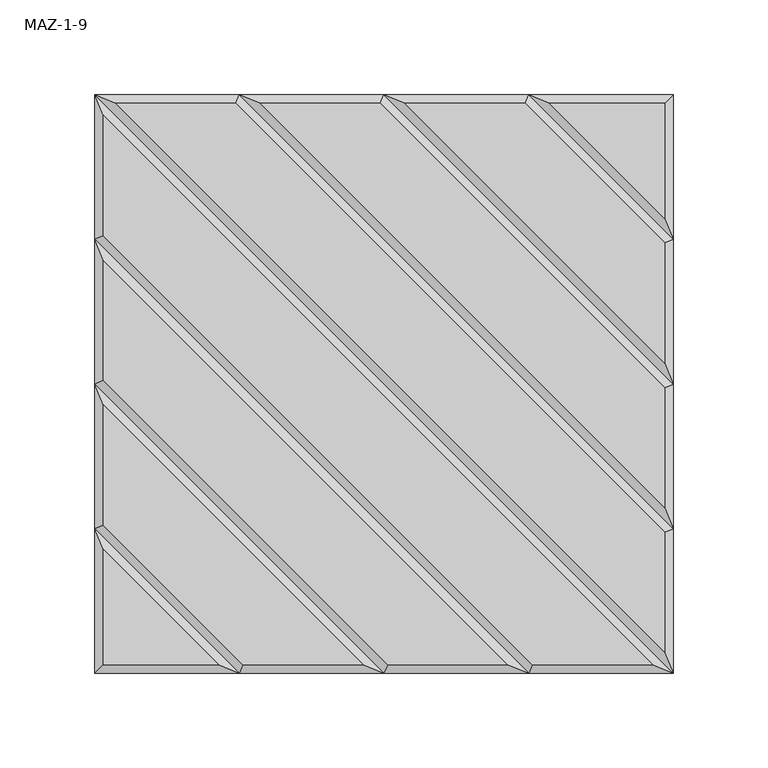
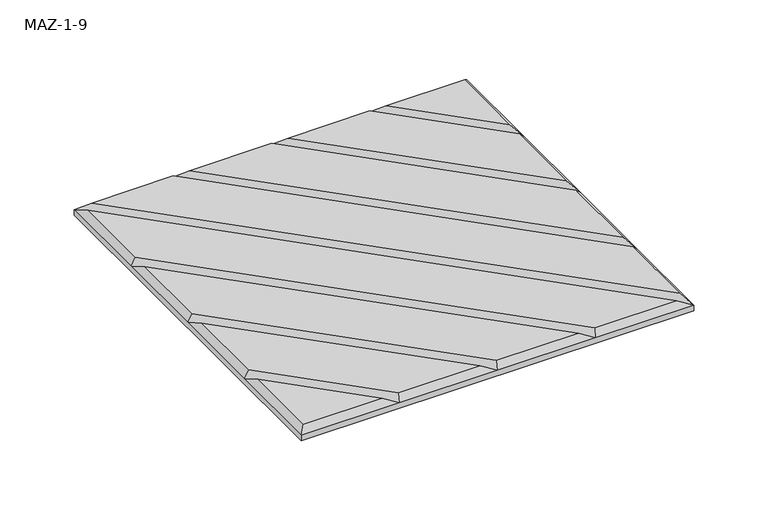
"""IFC4 building model written with IfcOpenShell, lengths in millimetres: proxy geometry, Turf_Wall Tile_Maze : MAZ-1-9."""

from ifc_helpers import new_model, si_unit, origin, place, context, project, spatial, faceted_brep, source, transform, mapped, element, save


def maz_1_9_928b4c34(model_context):
    return source(origin(), model_context, "Body", "Brep", [
        faceted_brep([(-152.4, 0.0, 10.85), (-152.4, 76.2, 10.85), (-152.4, 152.4, 10.85), (-152.4, 152.4, 6.35), (-152.4, -152.4, 6.35), (-152.4, -152.4, 10.85), (-152.4, -76.2, 10.85), (76.2, -152.4, 10.85), (0.0, -152.4, 10.85), (-76.2, -152.4, 10.85), (152.4, -152.4, 6.35), (152.4, -152.4, 10.85), (-1.863961, 147.9, 15.35), (-65.336039, 147.9, 15.35), (147.9, -65.336039, 15.35), (147.9, -1.863961, 15.35), (152.4, 152.4, 6.35), (-141.536039, 147.9, 15.35), (147.9, -141.536039, 15.35), (-76.2, 152.4, 10.85), (152.4, -76.2, 10.85), (65.336039, -147.9, 15.35), (-147.9, 65.336039, 15.35), (78.063961, -147.9, 15.35), (141.536039, -147.9, 15.35), (-147.9, 141.536039, 15.35), (-147.9, 78.063961, 15.35), (-78.063961, 147.9, 15.35), (147.9, -78.063961, 15.35), (1.863961, -147.9, 15.35), (-147.9, 1.863961, 15.35), (147.9, 10.863961, 15.35), (147.9, 74.336039, 15.35), (74.336039, 147.9, 15.35), (10.863961, 147.9, 15.35), (-74.336039, -147.9, 15.35), (-10.863961, -147.9, 15.35), (-147.9, -10.863961, 15.35), (-147.9, -74.336039, 15.35), (147.9, 147.9, 15.35), (87.063961, 147.9, 15.35), (147.9, 87.063961, 15.35), (-147.9, -147.9, 15.35), (-87.063961, -147.9, 15.35), (-147.9, -87.063961, 15.35), (0.0, 152.4, 10.85), (152.4, 0.0, 10.85), (76.2, 152.4, 10.85), (152.4, 76.2, 10.85), (152.4, 152.4, 10.85)], [[[0, 1, 2, 3, 4, 5, 6]], [[7, 8, 9, 5, 4, 10, 11]], [[12, 13, 14, 15]], [[3, 16, 10, 4]], [[17, 2, 11, 18]], [[13, 19, 20, 14]], [[21, 7, 1, 22]], [[23, 24, 25, 26]], [[27, 17, 18, 28]], [[29, 21, 22, 30]], [[31, 32, 33, 34]], [[35, 36, 37, 38]], [[39, 40, 41]], [[42, 43, 44]], [[24, 11, 2, 25]], [[34, 45, 46, 31]], [[36, 8, 0, 37]], [[40, 47, 48, 41]], [[43, 9, 6, 44]], [[9, 35, 38, 6]], [[47, 33, 32, 48]], [[8, 29, 30, 0]], [[45, 12, 15, 46]], [[19, 27, 28, 20]], [[7, 23, 26, 1]], [[49, 48, 46, 20, 11, 10, 16]], [[47, 49, 16, 3, 2, 19, 45]], [[12, 45, 19, 13]], [[40, 39, 49, 47]], [[27, 19, 2, 17]], [[47, 45, 34, 33]], [[7, 11, 24, 23]], [[9, 8, 36, 35]], [[42, 5, 9, 43]], [[21, 29, 8, 7]], [[41, 48, 49, 39]], [[14, 20, 46, 15]], [[31, 46, 48, 32]], [[11, 20, 28, 18]], [[25, 2, 1, 26]], [[38, 37, 0, 6]], [[6, 5, 42, 44]], [[1, 0, 30, 22]]]),
    ])


if __name__ == "__main__":
    model = new_model("IFC4")
    model_context = context("Model", 3, world=origin())
    ifc_project = project(units=[si_unit("LENGTHUNIT", "METRE", prefix="MILLI")], contexts=[model_context])
    site = spatial("IfcSite", under=ifc_project)
    building = spatial("IfcBuilding", under=site)
    placement = place(None, origin())
    maz_1_9_shape = maz_1_9_928b4c34(model_context)
    element("IfcBuildingElementProxy", 1, Name="Turf_Wall Tile_Maze : MAZ-1-9", ObjectType="Turf_Wall Tile_Maze : MAZ-1-9", at=placement, inside=building, context=model_context, shape_type="MappedRepresentation", body=[
        mapped(maz_1_9_shape, transform((0.0, 0.0, 0.0), x_axis=(1.0, 0.0, 0.0), y_axis=(0.0, 1.0, 0.0), z_axis=(0.0, 0.0, 1.0))),
    ])
    save(model, "model.ifc")
